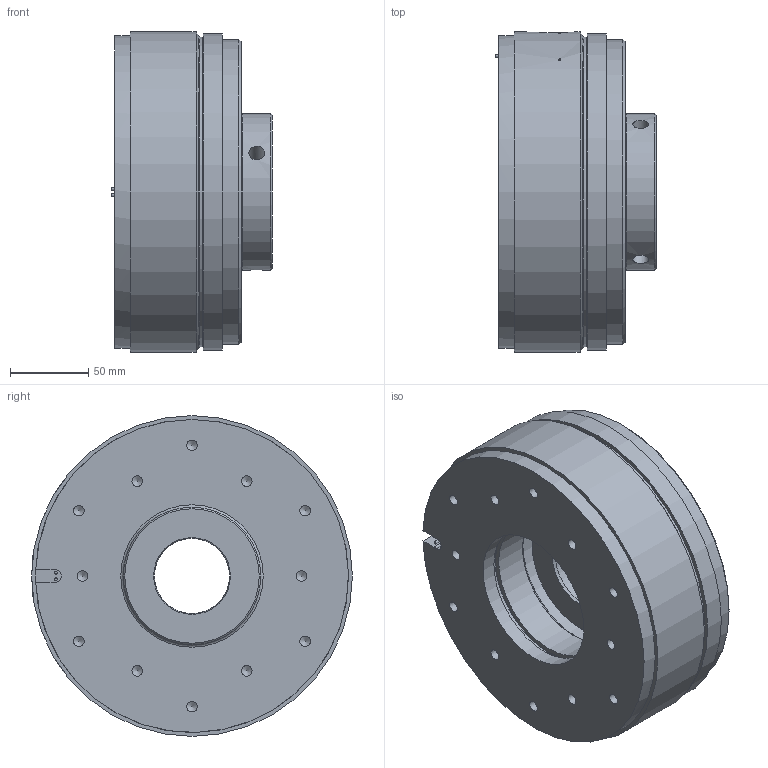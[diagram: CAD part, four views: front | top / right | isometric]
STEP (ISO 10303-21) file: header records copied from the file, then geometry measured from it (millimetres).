
FILE_DESCRIPTION (( 'STEP AP203' ), '1' );
FILE_NAME ('86_61121K00_0001_Idx_-.STEP', '2025-02-19T12:43:53', ( '' ), ( '' ), 'SwSTEP 2.0', 'SolidWorks 2022', '' );
FILE_SCHEMA (( 'CONFIG_CONTROL_DESIGN' ));
Length unit declared in the file: millimetre
Products named in the file (1): 86_61121K00_0001_Idx_-
Bounding box: 102.8 x 205 x 205 mm (x, y, z)
Volume: 2261164.5 mm3; surface area: 210456.1 mm2
Topology: 2 solids, 2 shells, 83 faces, 174 edges, 106 vertices
Faces by surface type: cylinder 36, cone 23, plane 18, torus 6
Full cylindrical faces by diameter (mm): 1.6 x4, 1.8 x2, 6.8 x12, 10.2 x3, 48 x1, 88 x1, 91 x2, 97 x1, 100 x1, 103 x1, 116 x1, 168.2 x1, 195 x1, 198 x1, 200 x1, 202 x1, 205 x1
Entity records: 2363 total; most frequent: CARTESIAN_POINT 824, DIRECTION 326, ORIENTED_EDGE 186, EDGE_LOOP 168, AXIS2_PLACEMENT_3D 159, FACE_OUTER_BOUND 124, EDGE_CURVE 93, VERTEX_POINT 89
